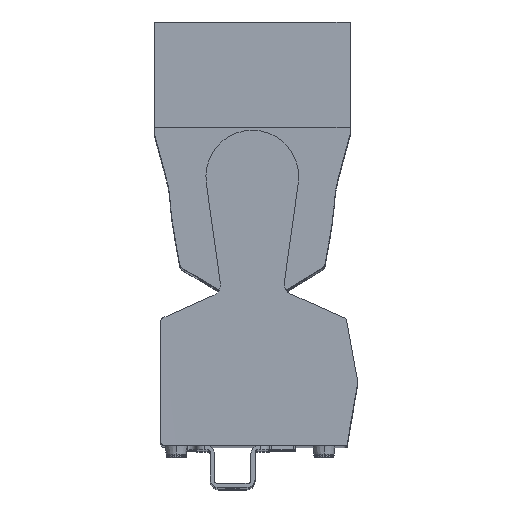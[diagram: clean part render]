
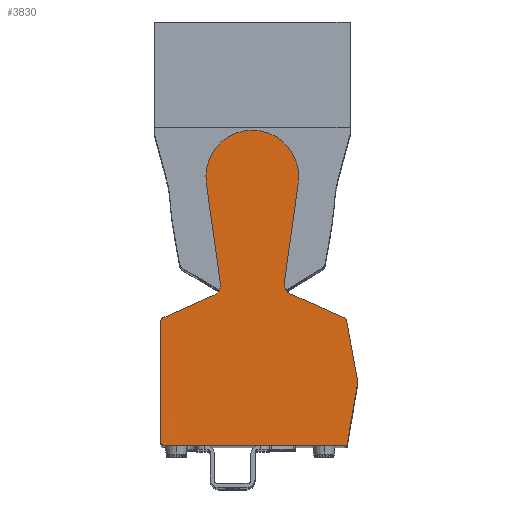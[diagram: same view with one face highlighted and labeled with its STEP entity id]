
A CAD part, top view. The second image highlights one B-rep face of the part: STEP entity #3830.
In plain terms, the highlighted planar face has unit normal (0, 0, 1).
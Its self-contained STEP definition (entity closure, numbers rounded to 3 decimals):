
#941=DIRECTION('',(-1.,0.,-0.001));
#942=VECTOR('',#941,15.49);
#943=CARTESIAN_POINT('',(78.99,0.,500.));
#944=LINE('',#943,#942);
#945=DIRECTION('',(-1.,0.,0.));
#946=VECTOR('',#945,105.);
#947=CARTESIAN_POINT('',(63.5,0.001,499.979));
#948=LINE('',#947,#946);
#949=DIRECTION('',(-1.,0.,0.002));
#950=VECTOR('',#949,8.5);
#951=CARTESIAN_POINT('',(-41.5,0.001,499.979));
#952=LINE('',#951,#950);
#953=CARTESIAN_POINT('',(-50.,2.5,500.));
#954=DIRECTION('',(0.,0.,-1.));
#955=DIRECTION('',(0.,-1.,0.));
#956=AXIS2_PLACEMENT_3D('',#953,#954,#955);
#958=DIRECTION('',(0.,1.,0.));
#959=VECTOR('',#958,85.88);
#960=CARTESIAN_POINT('',(-52.5,2.5,500.));
#961=LINE('',#960,#959);
#962=CARTESIAN_POINT('',(-50.,88.38,500.));
#963=DIRECTION('',(0.,0.,-1.));
#964=DIRECTION('',(-1.,0.,0.));
#965=AXIS2_PLACEMENT_3D('',#962,#963,#964);
#967=DIRECTION('',(0.914,0.407,0.));
#968=VECTOR('',#967,39.605);
#969=CARTESIAN_POINT('',(-51.017,90.664,500.));
#970=LINE('',#969,#968);
#971=CARTESIAN_POINT('',(-18.09,114.081,500.));
#972=DIRECTION('',(0.,0.,1.));
#973=DIRECTION('',(0.407,-0.914,0.));
#974=AXIS2_PLACEMENT_3D('',#971,#972,#973);
#976=DIRECTION('',(-0.139,0.99,0.));
#977=VECTOR('',#976,71.932);
#978=CARTESIAN_POINT('',(-10.168,115.194,500.));
#979=LINE('',#978,#977);
#980=DIRECTION('',(-0.139,-0.99,0.));
#981=VECTOR('',#980,71.142);
#982=CARTESIAN_POINT('',(45.179,186.426,500.));
#983=LINE('',#982,#981);
#984=CARTESIAN_POINT('',(43.2,114.864,500.));
#985=DIRECTION('',(0.,0.,1.));
#986=DIRECTION('',(-0.99,0.139,0.));
#987=AXIS2_PLACEMENT_3D('',#984,#985,#986);
#989=DIRECTION('',(0.914,-0.407,0.));
#990=VECTOR('',#989,41.749);
#991=CARTESIAN_POINT('',(39.946,107.555,500.));
#992=LINE('',#991,#990);
#993=CARTESIAN_POINT('',(77.068,88.291,500.));
#994=DIRECTION('',(0.,0.,-1.));
#995=DIRECTION('',(0.407,0.914,0.));
#996=AXIS2_PLACEMENT_3D('',#993,#994,#995);
#998=DIRECTION('',(0.179,-0.984,0.));
#999=VECTOR('',#998,42.171);
#1000=CARTESIAN_POINT('',(79.528,88.739,500.));
#1001=LINE('',#1000,#999);
#1002=DIRECTION('',(-0.168,-0.986,0.));
#1003=VECTOR('',#1002,42.508);
#1004=CARTESIAN_POINT('',(87.116,42.736,500.));
#1005=LINE('',#1004,#1003);
#1006=CARTESIAN_POINT('',(78.99,1.,500.));
#1007=DIRECTION('',(0.,0.,-1.));
#1008=DIRECTION('',(0.986,-0.168,0.));
#1009=AXIS2_PLACEMENT_3D('',#1006,#1007,#1008);
#2037=CARTESIAN_POINT('',(12.5,191.019,500.));
#2038=DIRECTION('',(0.,0.,1.));
#2039=DIRECTION('',(0.99,-0.139,0.));
#2040=AXIS2_PLACEMENT_3D('',#2037,#2038,#2039);
#2072=CARTESIAN_POINT('',(74.301,44.92,500.));
#2073=DIRECTION('',(0.,0.,1.));
#2074=DIRECTION('',(0.986,-0.168,0.));
#2075=AXIS2_PLACEMENT_3D('',#2072,#2073,#2074);
#2247=CARTESIAN_POINT('',(45.179,186.426,500.));
#2248=CARTESIAN_POINT('',(35.278,115.977,500.));
#2249=VERTEX_POINT('',#2247);
#2250=VERTEX_POINT('',#2248);
#2251=CARTESIAN_POINT('',(39.946,107.555,500.));
#2252=VERTEX_POINT('',#2251);
#2253=CARTESIAN_POINT('',(78.085,90.575,500.));
#2254=VERTEX_POINT('',#2253);
#2255=CARTESIAN_POINT('',(79.528,88.739,500.));
#2256=VERTEX_POINT('',#2255);
#2257=CARTESIAN_POINT('',(87.09,47.251,500.));
#2258=VERTEX_POINT('',#2257);
#2259=CARTESIAN_POINT('',(87.116,42.736,500.));
#2260=CARTESIAN_POINT('',(79.976,0.832,500.));
#2261=VERTEX_POINT('',#2259);
#2262=VERTEX_POINT('',#2260);
#2263=CARTESIAN_POINT('',(78.99,0.,500.));
#2264=VERTEX_POINT('',#2263);
#2265=CARTESIAN_POINT('',(-50.,0.,500.));
#2266=CARTESIAN_POINT('',(-52.5,2.5,500.));
#2267=VERTEX_POINT('',#2265);
#2268=VERTEX_POINT('',#2266);
#2269=CARTESIAN_POINT('',(-52.5,88.38,500.));
#2270=VERTEX_POINT('',#2269);
#2271=CARTESIAN_POINT('',(-51.017,90.664,500.));
#2272=VERTEX_POINT('',#2271);
#2273=CARTESIAN_POINT('',(-14.836,106.773,500.));
#2274=VERTEX_POINT('',#2273);
#2275=CARTESIAN_POINT('',(-10.168,115.194,500.));
#2276=VERTEX_POINT('',#2275);
#2277=CARTESIAN_POINT('',(-20.179,186.426,500.));
#2278=VERTEX_POINT('',#2277);
#2666=CARTESIAN_POINT('',(-41.5,0.,499.965));
#2668=VERTEX_POINT('',#2666);
#2670=CARTESIAN_POINT('',(63.5,0.,499.965));
#2672=VERTEX_POINT('',#2670);
#3792=CARTESIAN_POINT('',(0.,0.,500.));
#3793=DIRECTION('',(0.,0.,-1.));
#3794=DIRECTION('',(-1.,0.,0.));
#3795=AXIS2_PLACEMENT_3D('',#3792,#3793,#3794);
#3796=PLANE('',#3795);
#3797=ORIENTED_EDGE('',*,*,#2976,.T.);
#3798=ORIENTED_EDGE('',*,*,#2970,.T.);
#3799=ORIENTED_EDGE('',*,*,#2964,.T.);
#3800=ORIENTED_EDGE('',*,*,#3773,.T.);
#3801=ORIENTED_EDGE('',*,*,#3535,.T.);
#3803=ORIENTED_EDGE('',*,*,#3802,.T.);
#3805=ORIENTED_EDGE('',*,*,#3804,.T.);
#3807=ORIENTED_EDGE('',*,*,#3806,.T.);
#3809=ORIENTED_EDGE('',*,*,#3808,.T.);
#3811=ORIENTED_EDGE('',*,*,#3810,.F.);
#3813=ORIENTED_EDGE('',*,*,#3812,.T.);
#3815=ORIENTED_EDGE('',*,*,#3814,.T.);
#3817=ORIENTED_EDGE('',*,*,#3816,.T.);
#3819=ORIENTED_EDGE('',*,*,#3818,.T.);
#3821=ORIENTED_EDGE('',*,*,#3820,.T.);
#3823=ORIENTED_EDGE('',*,*,#3822,.F.);
#3825=ORIENTED_EDGE('',*,*,#3824,.T.);
#3827=ORIENTED_EDGE('',*,*,#3826,.T.);
#3828=EDGE_LOOP('',(#3797,#3798,#3799,#3800,#3801,#3803,#3805,#3807,#3809,#3811,
#3813,#3815,#3817,#3819,#3821,#3823,#3825,#3827));
#3829=FACE_OUTER_BOUND('',#3828,.F.);
#957=CIRCLE('',#956,2.5);
#966=CIRCLE('',#965,2.5);
#975=CIRCLE('',#974,8.);
#988=CIRCLE('',#987,8.);
#997=CIRCLE('',#996,2.5);
#1010=CIRCLE('',#1009,1.);
#2041=CIRCLE('',#2040,33.);
#2076=CIRCLE('',#2075,13.);
#2964=EDGE_CURVE('',#2668,#2267,#952,.T.);
#2970=EDGE_CURVE('',#2672,#2668,#948,.T.);
#2976=EDGE_CURVE('',#2264,#2672,#944,.T.);
#3535=EDGE_CURVE('',#2268,#2270,#961,.T.);
#3773=EDGE_CURVE('',#2267,#2268,#957,.T.);
#3802=EDGE_CURVE('',#2270,#2272,#966,.T.);
#3804=EDGE_CURVE('',#2272,#2274,#970,.T.);
#3806=EDGE_CURVE('',#2274,#2276,#975,.T.);
#3808=EDGE_CURVE('',#2276,#2278,#979,.T.);
#3810=EDGE_CURVE('',#2249,#2278,#2041,.T.);
#3812=EDGE_CURVE('',#2249,#2250,#983,.T.);
#3814=EDGE_CURVE('',#2250,#2252,#988,.T.);
#3816=EDGE_CURVE('',#2252,#2254,#992,.T.);
#3818=EDGE_CURVE('',#2254,#2256,#997,.T.);
#3820=EDGE_CURVE('',#2256,#2258,#1001,.T.);
#3822=EDGE_CURVE('',#2261,#2258,#2076,.T.);
#3824=EDGE_CURVE('',#2261,#2262,#1005,.T.);
#3826=EDGE_CURVE('',#2262,#2264,#1010,.T.);
#3830=ADVANCED_FACE('',(#3829),#3796,.F.);
